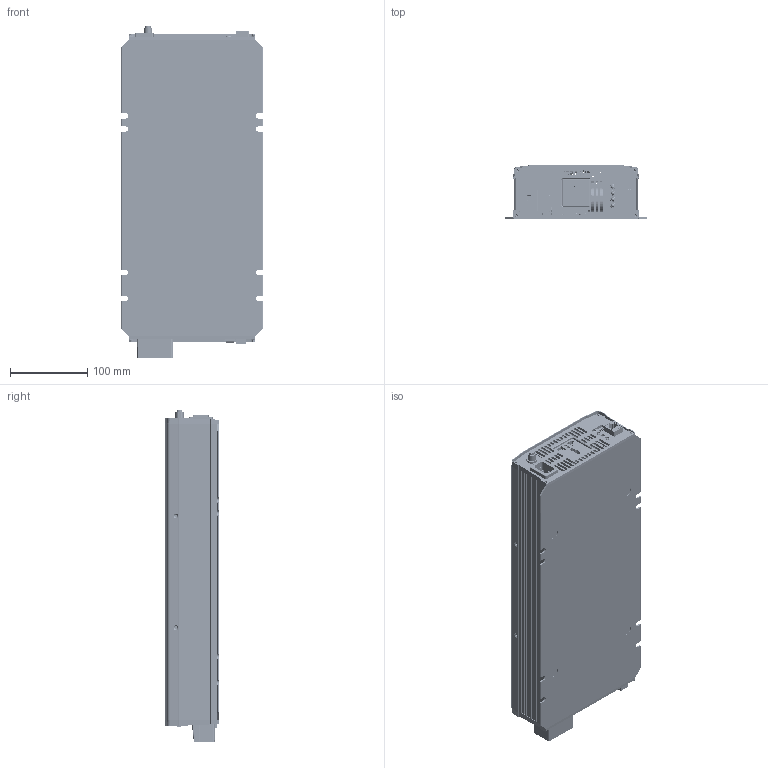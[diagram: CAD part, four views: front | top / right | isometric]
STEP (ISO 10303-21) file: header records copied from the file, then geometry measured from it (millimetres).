
FILE_DESCRIPTION(('Creo Elements/Direct Modeling STEP Export'),'2;1');
FILE_NAME('NTU-1700万国插.stp','2022-03-22T10:56:42',(''),(''),'PTC Creo Elements/Direct Modeling STEP processor for AP214 (Solid Model)','PTC Creo Elements/Direct Modeling 19.0E 27-Jun-2016 (C) Parametric Technology GmbH','');
FILE_SCHEMA(('AUTOMOTIVE_DESIGN { 1 0 10303 214 1 1 1 1 }'));
Length unit declared in the file: millimetre
Products named in the file (280): 热敏.1; 热敏; 接地端子; 万国插; _S___S_G_S_NA_S___S_H_X2_02DC__.PRT; TSW; TO247.22; TO247.21; TO247.12; TO247.11; TO220.27; TO220.26; TO220.25; TO220.24; TO220.23; TO220.22; TO220.21; TO220.18; TO220.17; TO220.16; TO220.15; TO220.14; TO220.13; TO220.12; TO220.11; THERMAL_PAD-2_5.PRT; THERMAL_PAD-1_8.PRT; SW65A; SI_PRT_16_1_1_5.PRT; PHONE_JACK_1.PRT; PCBF; PCBE; PCBC; PCBB; PCBA; PCB-D; P1.PRT; ON-OFF; MYLAR_PRT_16_1_1_5.PRT; MYLAR-2_5.PRT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
Assembly tree (117 placements, depth 2):
  热敏.1
    热敏.1
  热敏
    热敏
  接地端子
    接地端子
  万国插
    万国插
  _S___S_G_S_NA_S___S_H_X2_02DC__.PRT
    _S___S_G_S_NA_S___S_H_X2_02DC__.PRT
Bounding box: 183.99 x 70 x 431.06 mm (x, y, z)
Volume: 1453620.5 mm3; surface area: 1316279.5 mm2
Topology: 171 solids, 171 shells, 7326 faces, 19478 edges, 12770 vertices
Faces by surface type: plane 5176, cylinder 1483, cone 389, bspline 98, torus 95, sphere 80, extrusion 5
Entity records: 233410 total; most frequent: CARTESIAN_POINT 47934, ORIENTED_EDGE 38596, DIRECTION 34757, EDGE_CURVE 19286, VECTOR 14955, LINE 14950, VERTEX_POINT 12698, AXIS2_PLACEMENT_3D 9901
